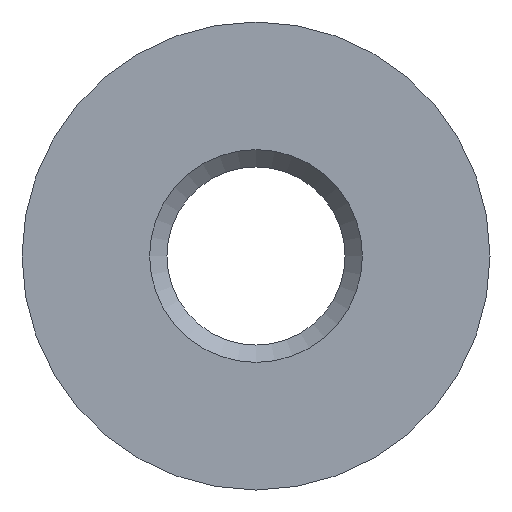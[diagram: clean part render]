
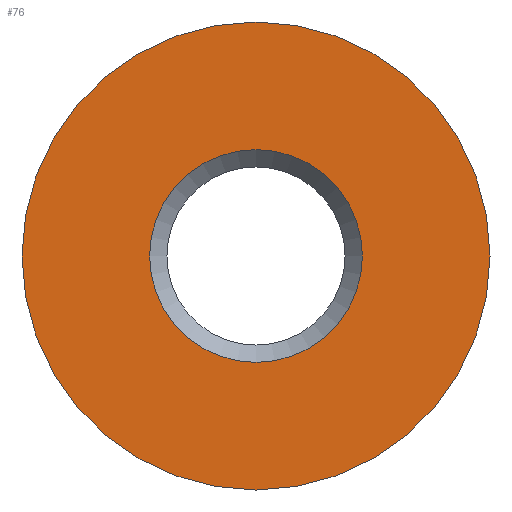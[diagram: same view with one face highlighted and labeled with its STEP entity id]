
A CAD part, front view. The second image highlights one B-rep face of the part: STEP entity #76.
In plain terms, the highlighted planar face has unit normal (0, -1, 0).
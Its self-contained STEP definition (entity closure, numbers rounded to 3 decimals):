
#76 = ADVANCED_FACE( '', ( #97, #98 ), #99, .F. );
#97 = FACE_BOUND( '', #142, .T. );
#98 = FACE_OUTER_BOUND( '', #143, .T. );
#99 = PLANE( '', #144 );
#142 = EDGE_LOOP( '', ( #193 ) );
#143 = EDGE_LOOP( '', ( #194 ) );
#144 = AXIS2_PLACEMENT_3D( '', #195, #196, #197 );
#193 = ORIENTED_EDGE( '', *, *, #319, .F. );
#194 = ORIENTED_EDGE( '', *, *, #320, .T. );
#195 = CARTESIAN_POINT( '', ( 11., 0., 0. ) );
#196 = DIRECTION( '', ( 0., 1., 0. ) );
#197 = DIRECTION( '', ( -1., 0., 0. ) );
#319 = EDGE_CURVE( '', #360, #360, #361, .T. );
#320 = EDGE_CURVE( '', #362, #362, #363, .T. );
#360 = VERTEX_POINT( '', #435 );
#361 = CIRCLE( '', #436, 5. );
#362 = VERTEX_POINT( '', #437 );
#363 = CIRCLE( '', #438, 11. );
#435 = CARTESIAN_POINT( '', ( 0., 0., -5. ) );
#436 = AXIS2_PLACEMENT_3D( '', #569, #570, #571 );
#437 = CARTESIAN_POINT( '', ( 11., 0., 0. ) );
#438 = AXIS2_PLACEMENT_3D( '', #572, #573, #574 );
#569 = CARTESIAN_POINT( '', ( 0., 0., 0. ) );
#570 = DIRECTION( '', ( 0., -1., 0. ) );
#571 = DIRECTION( '', ( 0., 0., -1. ) );
#572 = CARTESIAN_POINT( '', ( 0., 0., 0. ) );
#573 = DIRECTION( '', ( 0., -1., 0. ) );
#574 = DIRECTION( '', ( 1., 0., 0. ) );
